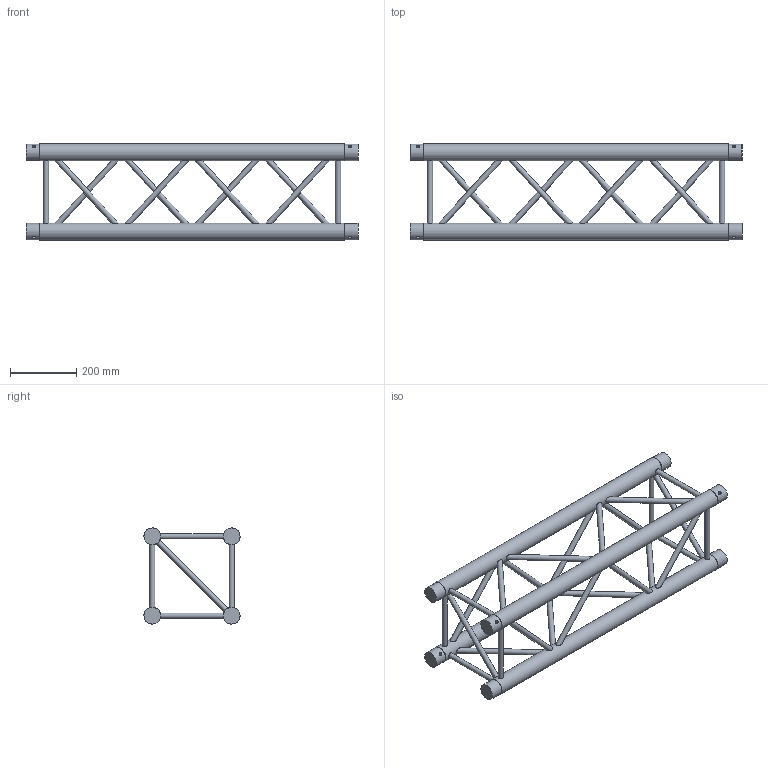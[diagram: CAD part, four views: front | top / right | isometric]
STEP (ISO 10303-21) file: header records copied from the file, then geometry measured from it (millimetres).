
FILE_DESCRIPTION(/* description */ (''),/* implementation_level */ '2;1');
FILE_NAME(/* name */ 'M:\Symbolen\STP\30-er truss\111080133.stp',/* time_stamp */ '2015-01-29T16:19:24+01:00',/* author */ ('Stephan'),/* organization */ (''),/* preprocessor_version */ 'ST-DEVELOPER v15.6',/* originating_system */ 'Autodesk Inventor 2015',/* authorisation */ '');
FILE_SCHEMA (('AUTOMOTIVE_DESIGN { 1 0 10303 214 3 1 1 }'));
Length unit declared in the file: millimetre
Products named in the file (1): 160023705
Bounding box: 1000 x 289.98 x 289.98 mm (x, y, z)
Volume: 8670681.9 mm3; surface area: 1013011.5 mm2
Topology: 22 solids, 30 shells, 152 faces, 280 edges, 184 vertices
Faces by surface type: plane 88, cylinder 56, cone 8
Full cylindrical faces by diameter (mm): 10 x8, 12 x2, 16 x26, 49.5 x8, 51 x4
Entity records: 4181 total; most frequent: CARTESIAN_POINT 1137, DIRECTION 546, ORIENTED_EDGE 416, AXIS2_PLACEMENT_3D 257, EDGE_LOOP 248, EDGE_CURVE 192, STYLED_ITEM 161, VERTEX_POINT 160
